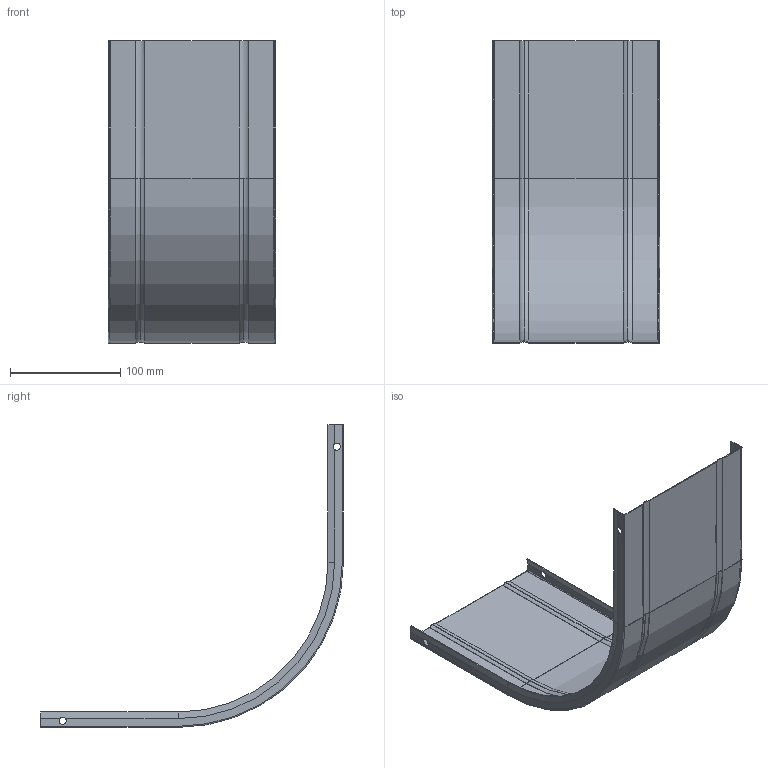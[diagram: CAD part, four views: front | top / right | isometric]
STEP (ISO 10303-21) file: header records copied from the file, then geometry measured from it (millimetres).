
FILE_DESCRIPTION (( 'STEP AP203' ), '1' );
FILE_NAME ('ERE_TAPA CXERC 150x100.step', '2023-07-28T14:52:49', ( '' ), ( '' ), 'SwSTEP 2.0', 'SolidWorks 2022', '' );
FILE_SCHEMA (( 'CONFIG_CONTROL_DESIGN' ));
Length unit declared in the file: millimetre
Products named in the file (1): ERE_TAPA CXERC 150x100
Bounding box: 152 x 275 x 275 mm (x, y, z)
Volume: 69217.6 mm3; surface area: 173462.5 mm2
Topology: 1 solids, 1 shells, 82 faces, 228 edges, 140 vertices
Faces by surface type: cylinder 36, plane 30, torus 12, cone 4
Entity records: 2709 total; most frequent: CARTESIAN_POINT 487, DIRECTION 474, ORIENTED_EDGE 456, EDGE_CURVE 228, AXIS2_PLACEMENT_3D 175, VERTEX_POINT 140, LINE 124, VECTOR 124
